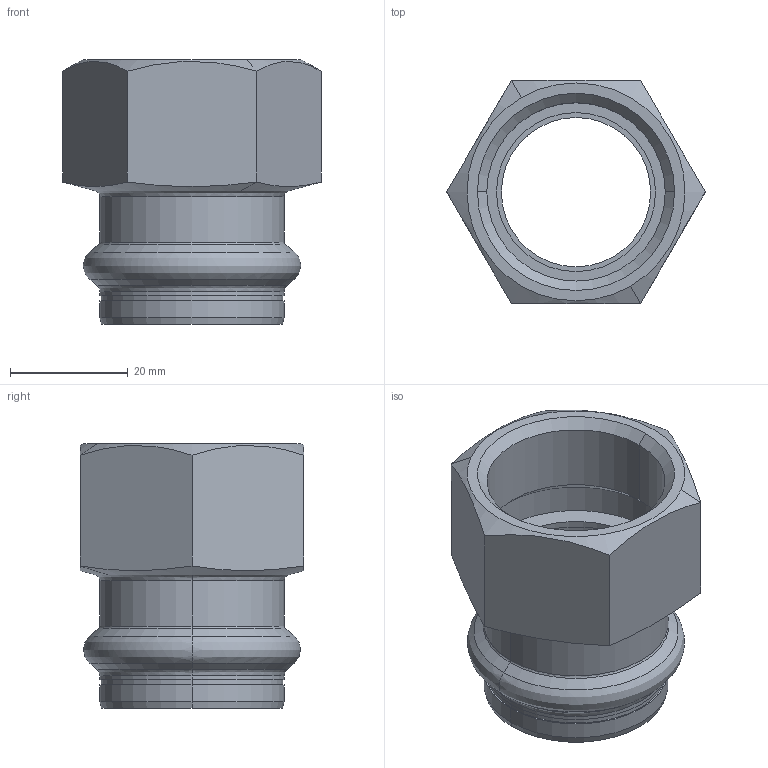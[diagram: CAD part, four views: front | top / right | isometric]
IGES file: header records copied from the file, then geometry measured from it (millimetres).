
Start section: Elysium IGES Interface
Global section: file name: C:\3d modellen sudo\C-Pr VP\SP8270GV\8270GVW281.igs; native system: CoCreate Modeling 17.00A  17-Jun-2010; preprocessor: CoCreate IGES_3D V2.2; author: Unknown; organization: Unknown; date: 20130305.111322; units: millimetre
Bounding box: 43.88 x 38 x 45 mm (x, y, z)
Volume: 15550.3 mm3; surface area: 11146.6 mm2
Topology: 1 solids, 1 shells, 59 faces, 138 edges, 78 vertices
Faces by surface type: bspline 59
